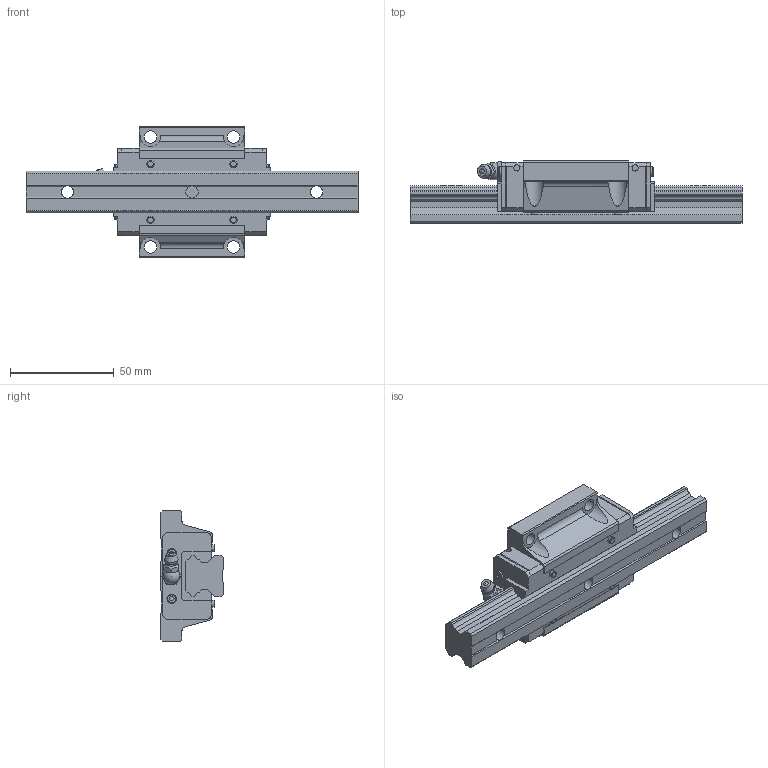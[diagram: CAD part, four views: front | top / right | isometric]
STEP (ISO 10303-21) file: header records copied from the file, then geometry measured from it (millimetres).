
FILE_DESCRIPTION(/* description */ ('STEP AP203'),/* implementation_level */ '2;1');
FILE_NAME(/* name */ 'HSR20M1B1SS-160L_G20_0_B-M6F_42_0_0_0',/* time_stamp */ '2024-05-23T06:14:12+02:00',/* author */ ('License CC BY-ND 4.0'),/* organization */ ('CADENAS'),/* preprocessor_version */ 'ST-DEVELOPER v19.3',/* originating_system */ 'PARTsolutions',/* authorisation */ ' ');
FILE_SCHEMA (('CONFIG_CONTROL_DESIGN'));
Length unit declared in the file: millimetre
Products named in the file (4): HSR20M1B1SS-160L_G20_0_B-M6F_42_0_0_0; HSR20M1B116020 Rail; HSR20M1BSSB-M6F Slider; hsr_ftht_B-M6F_grease_nipple_joint
Assembly tree (3 placements, depth 2):
  HSR20M1B1SS-160L_G20_0_B-M6F_42_0_0_0
    HSR20M1B116020 Rail
    HSR20M1BSSB-M6F Slider
    hsr_ftht_B-M6F_grease_nipple_joint
Bounding box: 160 x 30 x 63 mm (x, y, z)
Volume: 117433 mm3; surface area: 31914.4 mm2
Topology: 3 solids, 3 shells, 276 faces, 735 edges, 478 vertices
Faces by surface type: plane 204, cylinder 46, cone 13, torus 10, sphere 3
Full cylindrical faces by diameter (mm): 3 x4, 3.43 x4, 4.5 x4, 4.917 x2, 6 x8, 8 x1, 9.5 x3
Entity records: 8351 total; most frequent: CARTESIAN_POINT 1549, ORIENTED_EDGE 1354, DIRECTION 1346, EDGE_CURVE 677, LINE 504, VECTOR 504, VERTEX_POINT 468, AXIS2_PLACEMENT_3D 421
